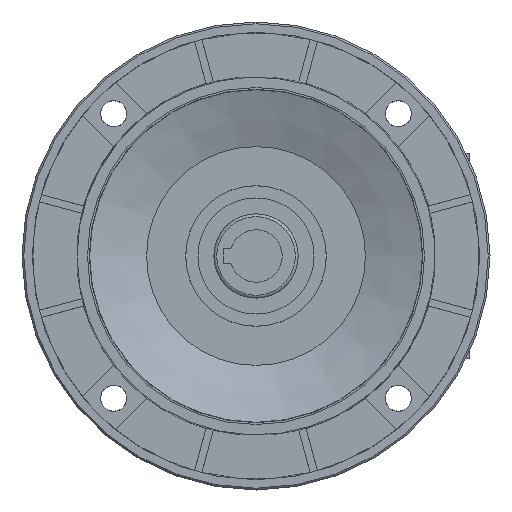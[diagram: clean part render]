
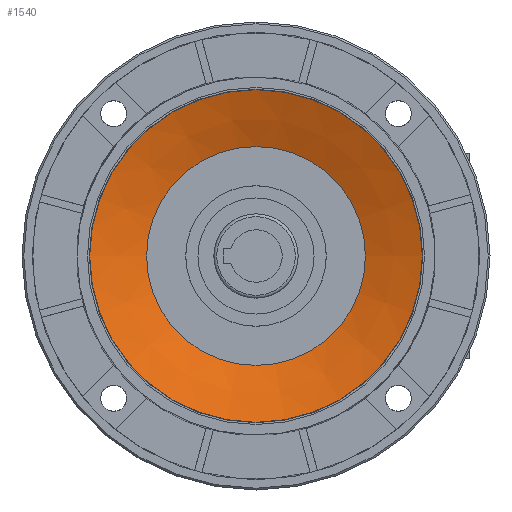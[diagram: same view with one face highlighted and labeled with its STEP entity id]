
A CAD part, left-side view. The second image highlights one B-rep face of the part: STEP entity #1540.
In plain terms, the highlighted conical face has half-angle 70.101 degrees and reference radius 58.442 mm.
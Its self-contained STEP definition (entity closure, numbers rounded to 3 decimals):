
#1540 = ADVANCED_FACE( '', ( #3965, #3966 ), #3967, .F. );
#3965 = FACE_OUTER_BOUND( '', #7522, .T. );
#3966 = FACE_BOUND( '', #7523, .T. );
#3967 = CONICAL_SURFACE( '', #7524, 58.442, 1.223 );
#7522 = EDGE_LOOP( '', ( #13306 ) );
#7523 = EDGE_LOOP( '', ( #13307 ) );
#7524 = AXIS2_PLACEMENT_3D( '', #13308, #13309, #13310 );
#13306 = ORIENTED_EDGE( '', *, *, #21516, .F. );
#13307 = ORIENTED_EDGE( '', *, *, #21672, .T. );
#13308 = CARTESIAN_POINT( '', ( -223., 34., 0. ) );
#13309 = DIRECTION( '', ( -1., 0., 0. ) );
#13310 = DIRECTION( '', ( 0., 1., 0. ) );
#21516 = EDGE_CURVE( '', #25736, #25736, #25737, .T. );
#21672 = EDGE_CURVE( '', #25978, #25978, #25979, .T. );
#25736 = VERTEX_POINT( '', #31739 );
#25737 = CIRCLE( '', #31740, 88.831 );
#25978 = VERTEX_POINT( '', #32087 );
#25979 = CIRCLE( '', #32088, 58.442 );
#31739 = CARTESIAN_POINT( '', ( -234., -54.831, 0. ) );
#31740 = AXIS2_PLACEMENT_3D( '', #38669, #38670, #38671 );
#32087 = CARTESIAN_POINT( '', ( -223., -24.442, 0. ) );
#32088 = AXIS2_PLACEMENT_3D( '', #38834, #38835, #38836 );
#38669 = CARTESIAN_POINT( '', ( -234., 34., 0. ) );
#38670 = DIRECTION( '', ( 1., 0., 0. ) );
#38671 = DIRECTION( '', ( 0., -1., 0. ) );
#38834 = CARTESIAN_POINT( '', ( -223., 34., 0. ) );
#38835 = DIRECTION( '', ( 1., 0., 0. ) );
#38836 = DIRECTION( '', ( 0., -1., 0. ) );
